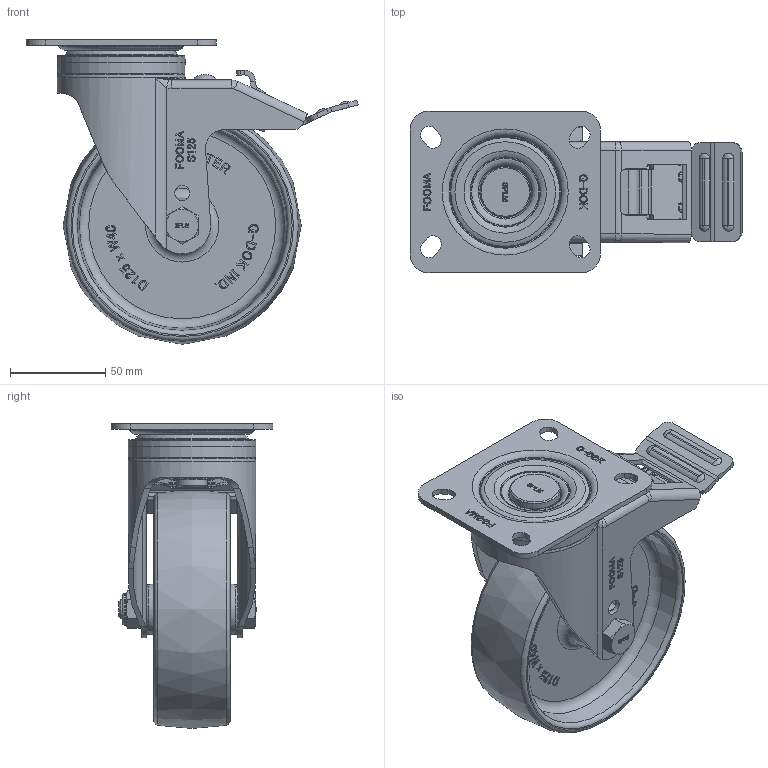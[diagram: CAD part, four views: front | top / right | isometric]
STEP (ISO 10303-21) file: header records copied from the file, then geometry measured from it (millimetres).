
FILE_DESCRIPTION(/* description */ (''),/* implementation_level */ '2;1');
FILE_NAME(/* name */ '\\192.168.10.38\지덕공유\1.기술연구소\2.연구개발 완료\완료_98.스테인레스캐스터 개발건_2023.10.26\제품설계\3D\홈페이지용\NYP\STP\SPLM-125-BSF-NYP-PEU.stp',/* time_stamp */ '2025-07-17T17:59:10+09:00',/* author */ ('admin'),/* organization */ ('지덕산업'),/* preprocessor_version */ 'ST-DEVELOPER v18.1',/* originating_system */ 'Autodesk Inventor 2021',/* authorisation */ '');
FILE_SCHEMA (('CONFIG_CONTROL_DESIGN'));
Products named in the file (1): SPLM-125-BSF-NYP-PEU
Bounding box: 174.29 x 85 x 160 mm (x, y, z)
Volume: 346989.2 mm3; surface area: 120426.7 mm2
Topology: 1 solids, 1 shells, 1724 faces, 4603 edges, 2969 vertices
Faces by surface type: plane 864, bspline 498, cylinder 256, cone 65, torus 40, sphere 1
Full cylindrical faces by diameter (mm): 6 x1, 7 x3, 8 x2, 9 x1, 10 x2, 11 x1, 12 x1, 16 x2, 16.5 x1, 26.6 x1, 54 x1, 67 x1
Entity records: 55550 total; most frequent: CARTESIAN_POINT 15783, ORIENTED_EDGE 9198, DIRECTION 6615, EDGE_CURVE 4599, VERTEX_POINT 2969, LINE 2743, VECTOR 2743, AXIS2_PLACEMENT_3D 1936
